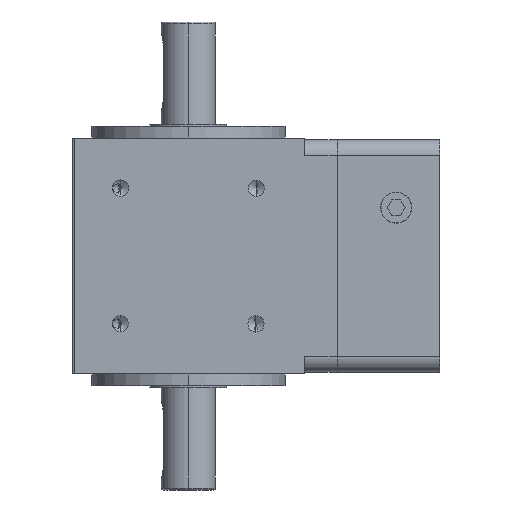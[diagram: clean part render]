
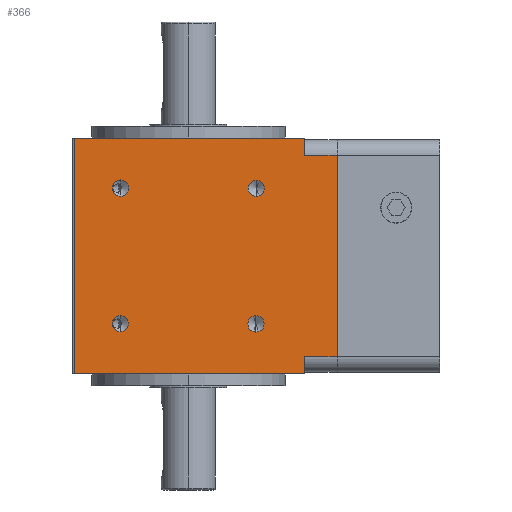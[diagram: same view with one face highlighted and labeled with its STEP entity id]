
A CAD part, left-side view. The second image highlights one B-rep face of the part: STEP entity #366.
In plain terms, the highlighted planar face has unit normal (-1, 0, 0).
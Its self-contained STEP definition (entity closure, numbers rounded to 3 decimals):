
#13 = CARTESIAN_POINT ( 'NONE',  ( -30., 30., 30.5 ) ) ;
#37 = CARTESIAN_POINT ( 'NONE',  ( -30., -17.571, 17.5 ) ) ;
#92 = LINE ( 'NONE', #6044, #1572 ) ;
#161 = EDGE_LOOP ( 'NONE', ( #2150, #6159 ) ) ;
#176 = CARTESIAN_POINT ( 'NONE',  ( -30., -17.571, 19.6 ) ) ;
#213 = DIRECTION ( 'NONE',  ( -1., 0., 0. ) ) ;
#220 = CIRCLE ( 'NONE', #5417, 2.1 ) ;
#224 = CARTESIAN_POINT ( 'NONE',  ( -30., -30., 26. ) ) ;
#226 = ORIENTED_EDGE ( 'NONE', *, *, #2198, .F. ) ;
#228 = CIRCLE ( 'NONE', #3845, 2.1 ) ;
#230 = EDGE_CURVE ( 'NONE', #1204, #3224, #2968, .T. ) ;
#248 = CARTESIAN_POINT ( 'NONE',  ( -30., 17.5, 17.571 ) ) ;
#337 = ORIENTED_EDGE ( 'NONE', *, *, #884, .F. ) ;
#344 = EDGE_CURVE ( 'NONE', #1204, #4099, #4014, .T. ) ;
#366 = ADVANCED_FACE ( 'NONE', ( #4854, #4084, #3216, #1530, #6309 ), #4105, .F. ) ;
#486 = EDGE_CURVE ( 'NONE', #5923, #2392, #2071, .T. ) ;
#496 = CARTESIAN_POINT ( 'NONE',  ( -30., -17.571, 15.4 ) ) ;
#504 = VERTEX_POINT ( 'NONE', #3869 ) ;
#698 = VECTOR ( 'NONE', #1963, 1000. ) ;
#725 = CIRCLE ( 'NONE', #3901, 2.1 ) ;
#755 = LINE ( 'NONE', #6166, #5251 ) ;
#843 = CIRCLE ( 'NONE', #4146, 2.1 ) ;
#883 = EDGE_LOOP ( 'NONE', ( #4779, #337 ) ) ;
#884 = EDGE_CURVE ( 'NONE', #3954, #3944, #725, .T. ) ;
#940 = AXIS2_PLACEMENT_3D ( 'NONE', #37, #4505, #4997 ) ;
#964 = EDGE_LOOP ( 'NONE', ( #3126, #2215 ) ) ;
#1068 = CARTESIAN_POINT ( 'NONE',  ( -30., -38.5, -26. ) ) ;
#1142 = VERTEX_POINT ( 'NONE', #496 ) ;
#1204 = VERTEX_POINT ( 'NONE', #2142 ) ;
#1254 = EDGE_CURVE ( 'NONE', #5230, #2238, #92, .T. ) ;
#1279 = DIRECTION ( 'NONE',  ( -1., 0., 0. ) ) ;
#1317 = DIRECTION ( 'NONE',  ( 1., 0., 0. ) ) ;
#1356 = AXIS2_PLACEMENT_3D ( 'NONE', #6267, #6288, #3346 ) ;
#1440 = CARTESIAN_POINT ( 'NONE',  ( -30., -17.5, -19.671 ) ) ;
#1530 = FACE_BOUND ( 'NONE', #161, .T. ) ;
#1572 = VECTOR ( 'NONE', #2664, 1000. ) ;
#1701 = DIRECTION ( 'NONE',  ( 0., 0., 1. ) ) ;
#1780 = CARTESIAN_POINT ( 'NONE',  ( -30., -17.5, -17.571 ) ) ;
#1797 = EDGE_LOOP ( 'NONE', ( #6014, #5107, #2456, #1903, #3827, #6027, #5093, #3565 ) ) ;
#1811 = CARTESIAN_POINT ( 'NONE',  ( -30., 30., -26. ) ) ;
#1845 = EDGE_CURVE ( 'NONE', #3493, #4812, #2421, .T. ) ;
#1885 = CARTESIAN_POINT ( 'NONE',  ( -30., 17.571, -19.6 ) ) ;
#1903 = ORIENTED_EDGE ( 'NONE', *, *, #1845, .F. ) ;
#1904 = LINE ( 'NONE', #1811, #3010 ) ;
#1944 = DIRECTION ( 'NONE',  ( -1., 0., 0. ) ) ;
#1960 = CARTESIAN_POINT ( 'NONE',  ( -30., 29.5, 30.5 ) ) ;
#1963 = DIRECTION ( 'NONE',  ( 0., -1., 0. ) ) ;
#2055 = DIRECTION ( 'NONE',  ( -1., 0., 0. ) ) ;
#2071 = CIRCLE ( 'NONE', #6414, 2.1 ) ;
#2142 = CARTESIAN_POINT ( 'NONE',  ( -30., -38.5, 26. ) ) ;
#2147 = LINE ( 'NONE', #3868, #6399 ) ;
#2150 = ORIENTED_EDGE ( 'NONE', *, *, #486, .F. ) ;
#2198 = EDGE_CURVE ( 'NONE', #6043, #1142, #2248, .T. ) ;
#2199 = DIRECTION ( 'NONE',  ( -1., 0., 0. ) ) ;
#2215 = ORIENTED_EDGE ( 'NONE', *, *, #4289, .F. ) ;
#2238 = VERTEX_POINT ( 'NONE', #6185 ) ;
#2248 = CIRCLE ( 'NONE', #1356, 2.1 ) ;
#2390 = EDGE_CURVE ( 'NONE', #3493, #5230, #5425, .T. ) ;
#2392 = VERTEX_POINT ( 'NONE', #1885 ) ;
#2410 = VERTEX_POINT ( 'NONE', #2939 ) ;
#2421 = LINE ( 'NONE', #13, #698 ) ;
#2456 = ORIENTED_EDGE ( 'NONE', *, *, #4207, .F. ) ;
#2518 = DIRECTION ( 'NONE',  ( 0., 1., 0. ) ) ;
#2598 = DIRECTION ( 'NONE',  ( 0., 0., 1. ) ) ;
#2664 = DIRECTION ( 'NONE',  ( 0., -1., 0. ) ) ;
#2682 = VECTOR ( 'NONE', #4128, 1000. ) ;
#2806 = VECTOR ( 'NONE', #3430, 1000. ) ;
#2939 = CARTESIAN_POINT ( 'NONE',  ( -30., 17.5, 15.471 ) ) ;
#2968 = LINE ( 'NONE', #5455, #5787 ) ;
#3010 = VECTOR ( 'NONE', #3728, 1000. ) ;
#3030 = CARTESIAN_POINT ( 'NONE',  ( -30., -30., -26. ) ) ;
#3039 = AXIS2_PLACEMENT_3D ( 'NONE', #4161, #213, #1701 ) ;
#3088 = EDGE_LOOP ( 'NONE', ( #226, #6170 ) ) ;
#3093 = EDGE_CURVE ( 'NONE', #3944, #3954, #228, .T. ) ;
#3126 = ORIENTED_EDGE ( 'NONE', *, *, #3351, .F. ) ;
#3146 = CARTESIAN_POINT ( 'NONE',  ( -30., 17.5, 17.571 ) ) ;
#3216 = FACE_BOUND ( 'NONE', #883, .T. ) ;
#3224 = VERTEX_POINT ( 'NONE', #224 ) ;
#3346 = DIRECTION ( 'NONE',  ( 0., 0., 1. ) ) ;
#3351 = EDGE_CURVE ( 'NONE', #504, #2410, #220, .T. ) ;
#3417 = CIRCLE ( 'NONE', #940, 2.1 ) ;
#3430 = DIRECTION ( 'NONE',  ( 0., 0., -1. ) ) ;
#3493 = VERTEX_POINT ( 'NONE', #1960 ) ;
#3565 = ORIENTED_EDGE ( 'NONE', *, *, #5765, .T. ) ;
#3656 = DIRECTION ( 'NONE',  ( 0., 0., -1. ) ) ;
#3716 = DIRECTION ( 'NONE',  ( 0., 0., 1. ) ) ;
#3728 = DIRECTION ( 'NONE',  ( 0., -1., 0. ) ) ;
#3739 = DIRECTION ( 'NONE',  ( 0., 0., 1. ) ) ;
#3780 = DIRECTION ( 'NONE',  ( 0., 0., 1. ) ) ;
#3792 = DIRECTION ( 'NONE',  ( 0., 1., 0. ) ) ;
#3827 = ORIENTED_EDGE ( 'NONE', *, *, #2390, .T. ) ;
#3845 = AXIS2_PLACEMENT_3D ( 'NONE', #4086, #2055, #2598 ) ;
#3868 = CARTESIAN_POINT ( 'NONE',  ( -30., -30., 30.5 ) ) ;
#3869 = CARTESIAN_POINT ( 'NONE',  ( -30., 17.5, 19.671 ) ) ;
#3879 = EDGE_CURVE ( 'NONE', #1142, #6043, #3417, .T. ) ;
#3901 = AXIS2_PLACEMENT_3D ( 'NONE', #1780, #4792, #3780 ) ;
#3944 = VERTEX_POINT ( 'NONE', #4498 ) ;
#3954 = VERTEX_POINT ( 'NONE', #1440 ) ;
#4014 = LINE ( 'NONE', #5551, #2682 ) ;
#4084 = FACE_BOUND ( 'NONE', #3088, .T. ) ;
#4086 = CARTESIAN_POINT ( 'NONE',  ( -30., -17.5, -17.571 ) ) ;
#4099 = VERTEX_POINT ( 'NONE', #1068 ) ;
#4105 = PLANE ( 'NONE',  #5458 ) ;
#4128 = DIRECTION ( 'NONE',  ( 0., 0., -1. ) ) ;
#4146 = AXIS2_PLACEMENT_3D ( 'NONE', #3146, #2199, #3739 ) ;
#4161 = CARTESIAN_POINT ( 'NONE',  ( -30., 17.571, -17.5 ) ) ;
#4207 = EDGE_CURVE ( 'NONE', #4812, #3224, #755, .T. ) ;
#4289 = EDGE_CURVE ( 'NONE', #2410, #504, #843, .T. ) ;
#4417 = DIRECTION ( 'NONE',  ( 0., 0., 1. ) ) ;
#4498 = CARTESIAN_POINT ( 'NONE',  ( -30., -17.5, -15.471 ) ) ;
#4505 = DIRECTION ( 'NONE',  ( -1., 0., 0. ) ) ;
#4596 = CARTESIAN_POINT ( 'NONE',  ( -30., 30., 30.5 ) ) ;
#4779 = ORIENTED_EDGE ( 'NONE', *, *, #3093, .F. ) ;
#4792 = DIRECTION ( 'NONE',  ( -1., 0., 0. ) ) ;
#4812 = VERTEX_POINT ( 'NONE', #5235 ) ;
#4850 = CARTESIAN_POINT ( 'NONE',  ( -30., 29.5, 30.5 ) ) ;
#4854 = FACE_BOUND ( 'NONE', #964, .T. ) ;
#4882 = EDGE_CURVE ( 'NONE', #5201, #2238, #2147, .T. ) ;
#4891 = CARTESIAN_POINT ( 'NONE',  ( -30., 17.571, -15.4 ) ) ;
#4997 = DIRECTION ( 'NONE',  ( 0., 0., 1. ) ) ;
#5093 = ORIENTED_EDGE ( 'NONE', *, *, #4882, .F. ) ;
#5107 = ORIENTED_EDGE ( 'NONE', *, *, #230, .T. ) ;
#5201 = VERTEX_POINT ( 'NONE', #3030 ) ;
#5230 = VERTEX_POINT ( 'NONE', #5587 ) ;
#5235 = CARTESIAN_POINT ( 'NONE',  ( -30., -30., 30.5 ) ) ;
#5251 = VECTOR ( 'NONE', #3656, 1000. ) ;
#5364 = CARTESIAN_POINT ( 'NONE',  ( -30., 17.571, -17.5 ) ) ;
#5376 = EDGE_CURVE ( 'NONE', #2392, #5923, #5538, .T. ) ;
#5417 = AXIS2_PLACEMENT_3D ( 'NONE', #248, #1279, #3716 ) ;
#5425 = LINE ( 'NONE', #4850, #2806 ) ;
#5455 = CARTESIAN_POINT ( 'NONE',  ( -30., 30., 26. ) ) ;
#5458 = AXIS2_PLACEMENT_3D ( 'NONE', #4596, #1317, #3792 ) ;
#5538 = CIRCLE ( 'NONE', #3039, 2.1 ) ;
#5551 = CARTESIAN_POINT ( 'NONE',  ( -30., -38.5, 30.5 ) ) ;
#5587 = CARTESIAN_POINT ( 'NONE',  ( -30., 29.5, -30.5 ) ) ;
#5765 = EDGE_CURVE ( 'NONE', #5201, #4099, #1904, .T. ) ;
#5771 = DIRECTION ( 'NONE',  ( 0., 0., -1. ) ) ;
#5787 = VECTOR ( 'NONE', #2518, 1000. ) ;
#5923 = VERTEX_POINT ( 'NONE', #4891 ) ;
#6014 = ORIENTED_EDGE ( 'NONE', *, *, #344, .F. ) ;
#6027 = ORIENTED_EDGE ( 'NONE', *, *, #1254, .T. ) ;
#6043 = VERTEX_POINT ( 'NONE', #176 ) ;
#6044 = CARTESIAN_POINT ( 'NONE',  ( -30., 30., -30.5 ) ) ;
#6159 = ORIENTED_EDGE ( 'NONE', *, *, #5376, .F. ) ;
#6166 = CARTESIAN_POINT ( 'NONE',  ( -30., -30., 30.5 ) ) ;
#6170 = ORIENTED_EDGE ( 'NONE', *, *, #3879, .F. ) ;
#6185 = CARTESIAN_POINT ( 'NONE',  ( -30., -30., -30.5 ) ) ;
#6267 = CARTESIAN_POINT ( 'NONE',  ( -30., -17.571, 17.5 ) ) ;
#6288 = DIRECTION ( 'NONE',  ( -1., 0., 0. ) ) ;
#6309 = FACE_OUTER_BOUND ( 'NONE', #1797, .T. ) ;
#6399 = VECTOR ( 'NONE', #5771, 1000. ) ;
#6414 = AXIS2_PLACEMENT_3D ( 'NONE', #5364, #1944, #4417 ) ;
